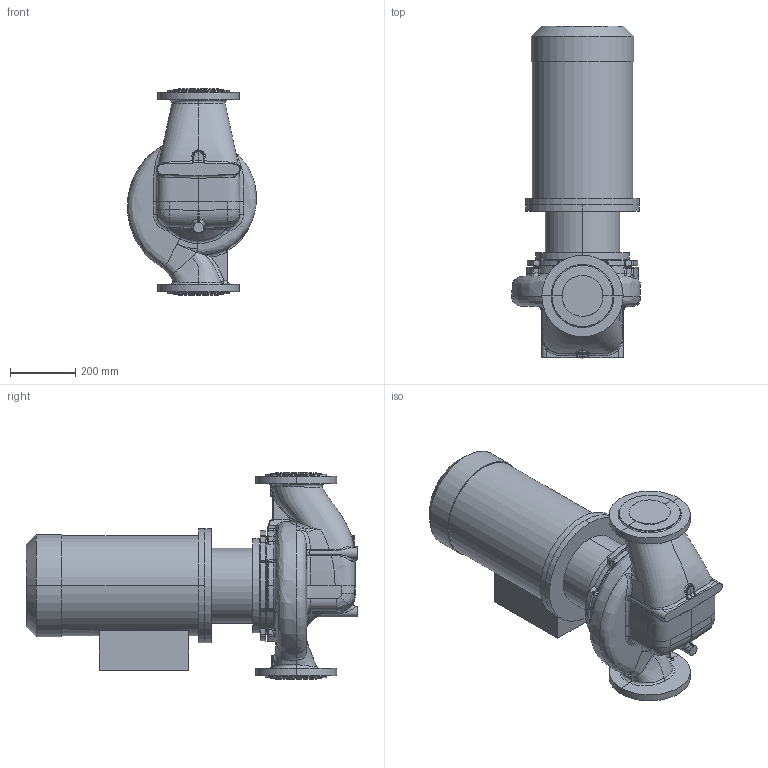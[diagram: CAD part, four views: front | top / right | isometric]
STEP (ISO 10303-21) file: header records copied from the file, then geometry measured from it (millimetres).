
FILE_DESCRIPTION (( 'STEP AP214' ), '1' );
FILE_NAME ('KRL 125-250-4-15.STEP', '2026-04-03T05:29:35', ( '' ), ( '' ), 'SwSTEP 2.0', 'SolidWorks 2016', '' );
FILE_SCHEMA (( 'AUTOMOTIVE_DESIGN' ));
Length unit declared in the file: millimetre
Products named in the file (1): KRL 125-250-4-15
Bounding box: 396.75 x 1020.8 x 634 mm (x, y, z)
Volume: 87037824.4 mm3; surface area: 2229687.4 mm2
Topology: 4 solids, 4 shells, 545 faces, 1349 edges, 821 vertices
Faces by surface type: bspline 248, cylinder 114, plane 105, cone 46, torus 18, sphere 14
Entity records: 58067 total; most frequent: CARTESIAN_POINT 41356, ORIENTED_EDGE 2668, DIRECTION 1629, EDGE_CURVE 1334, VERTEX_POINT 820, AXIS2_PLACEMENT_3D 690, B_SPLINE_CURVE_WITH_KNOTS 626, EDGE_LOOP 566
